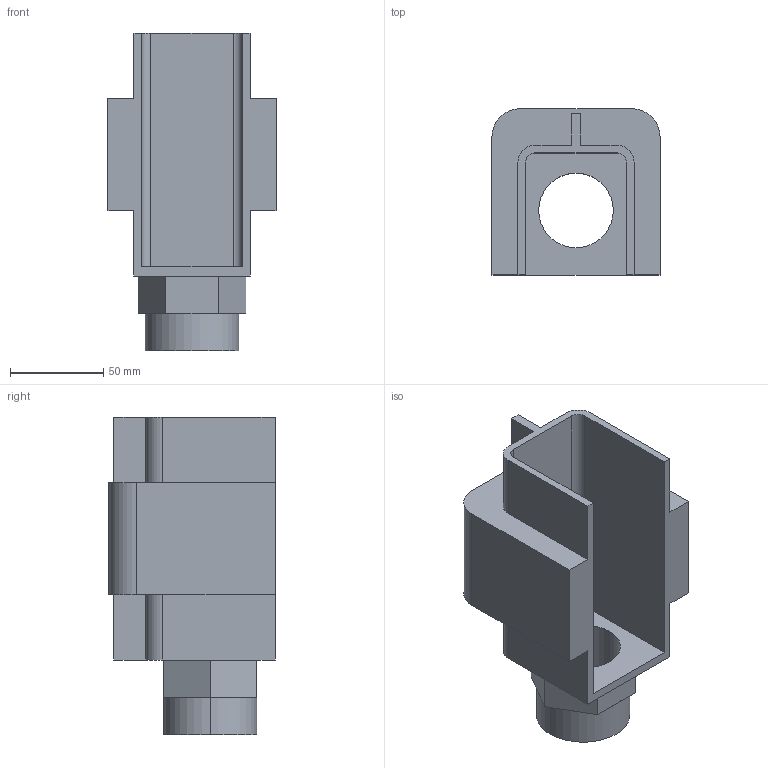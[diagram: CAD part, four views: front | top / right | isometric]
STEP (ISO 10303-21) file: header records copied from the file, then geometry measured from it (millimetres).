
FILE_DESCRIPTION (( 'STEP AP203' ), '1' );
FILE_NAME ('900.502.040.STEP', '2018-03-09T13:08:49', ( '' ), ( '' ), 'SwSTEP 2.0', 'SolidWorks 2016', '' );
FILE_SCHEMA (( 'CONFIG_CONTROL_DESIGN' ));
Length unit declared in the file: millimetre
Products named in the file (1): 900.502.040
Bounding box: 90 x 89 x 170 mm (x, y, z)
Volume: 367024.2 mm3; surface area: 82327.3 mm2
Topology: 1 solids, 1 shells, 51 faces, 138 edges, 90 vertices
Faces by surface type: plane 39, cylinder 12
Entity records: 1675 total; most frequent: CARTESIAN_POINT 280, ORIENTED_EDGE 276, DIRECTION 272, EDGE_CURVE 138, VECTOR 108, LINE 108, VERTEX_POINT 90, AXIS2_PLACEMENT_3D 82
